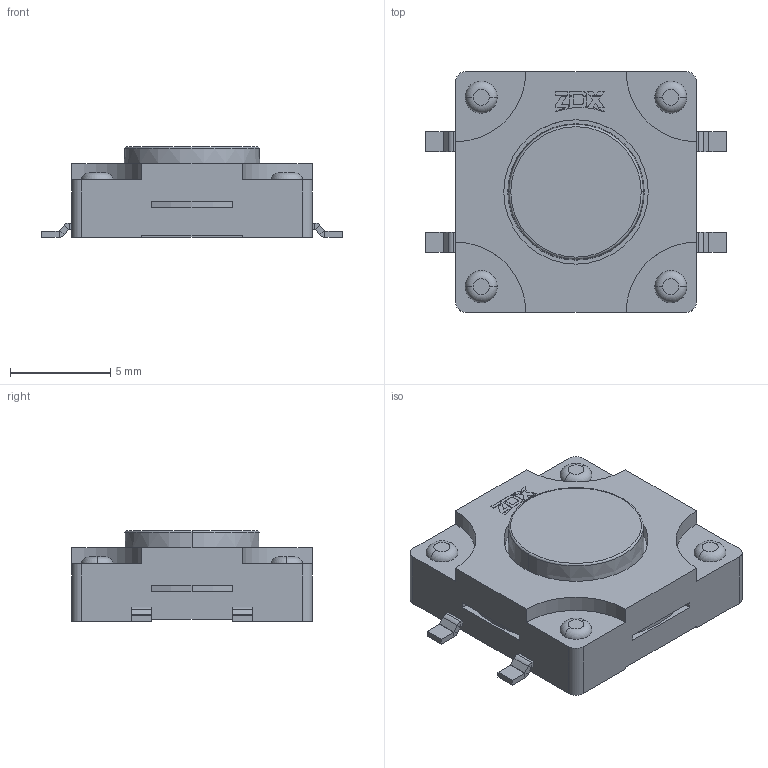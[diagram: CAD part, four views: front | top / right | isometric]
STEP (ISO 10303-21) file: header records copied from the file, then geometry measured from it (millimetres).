
FILE_DESCRIPTION((''),'2;1');
FILE_NAME('ASM0010_ASM','2024-01-04T',('WYH'),(''),'PRO/ENGINEER BY PARAMETRIC TECHNOLOGY CORPORATION, 2013040','PRO/ENGINEER BY PARAMETRIC TECHNOLOGY CORPORATION, 2013040','');
FILE_SCHEMA(('CONFIG_CONTROL_DESIGN'));
Length unit declared in the file: millimetre
Products named in the file (1): ASM0010_ASM
Bounding box: 15 x 12 x 4.5 mm (x, y, z)
Volume: 446.9 mm3; surface area: 999 mm2
Topology: 1 solids, 8 shells, 337 faces, 808 edges, 508 vertices
Faces by surface type: plane 209, cylinder 82, torus 34, bspline 8, cone 4
Entity records: 10014 total; most frequent: CARTESIAN_POINT 1955, DIRECTION 1712, ORIENTED_EDGE 1616, EDGE_CURVE 808, AXIS2_PLACEMENT_3D 583, VECTOR 546, LINE 546, VERTEX_POINT 508
